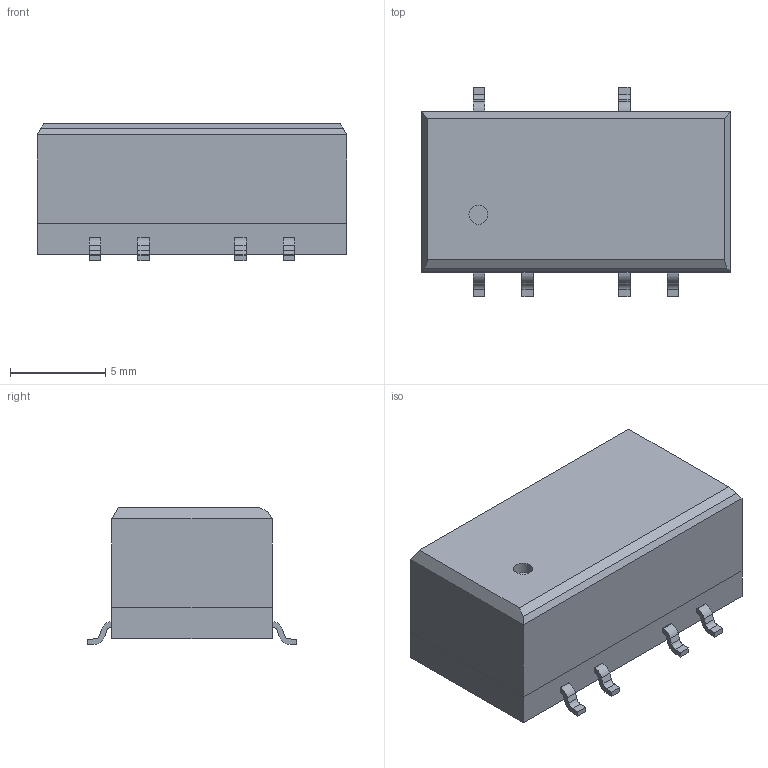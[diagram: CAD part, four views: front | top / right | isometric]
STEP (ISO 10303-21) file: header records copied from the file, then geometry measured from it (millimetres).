
FILE_DESCRIPTION(/* description */ (''),/* implementation_level */ '2;1');
FILE_NAME(/* name */ 'C:\Users\Calliope\Desktop\轉檔暫存用\TES 1(Dual Output).stp',/* time_stamp */ '2024-07-17T17:42:46+08:00',/* author */ ('Calliope'),/* organization */ (''),/* preprocessor_version */ 'ST-DEVELOPER v16.1',/* originating_system */ 'Autodesk Inventor 2016',/* authorisation */ '');
FILE_SCHEMA (('AUTOMOTIVE_DESIGN { 1 0 10303 214 3 1 1 }'));
Length unit declared in the file: millimetre
Products named in the file (1): TES 1(Dual Output)
Bounding box: 16.24 x 11 x 7.2 mm (x, y, z)
Volume: 653.5 mm3; surface area: 1091.3 mm2
Topology: 1 solids, 2 shells, 149 faces, 371 edges, 242 vertices
Faces by surface type: plane 123, cylinder 26
Full cylindrical faces by diameter (mm): 1 x2
Entity records: 4541 total; most frequent: CARTESIAN_POINT 761, ORIENTED_EDGE 738, DIRECTION 721, EDGE_CURVE 369, LINE 317, VECTOR 317, VERTEX_POINT 242, AXIS2_PLACEMENT_3D 202
